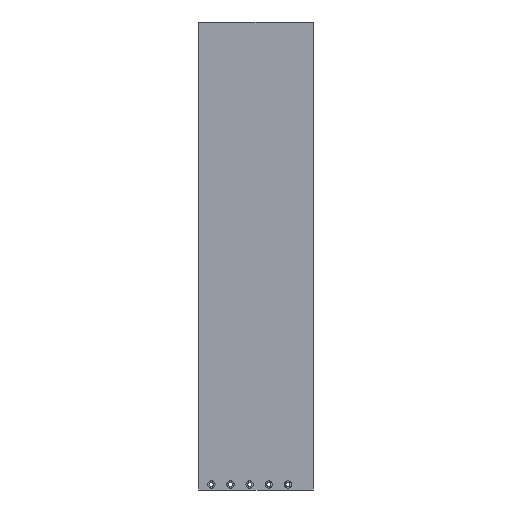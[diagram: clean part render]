
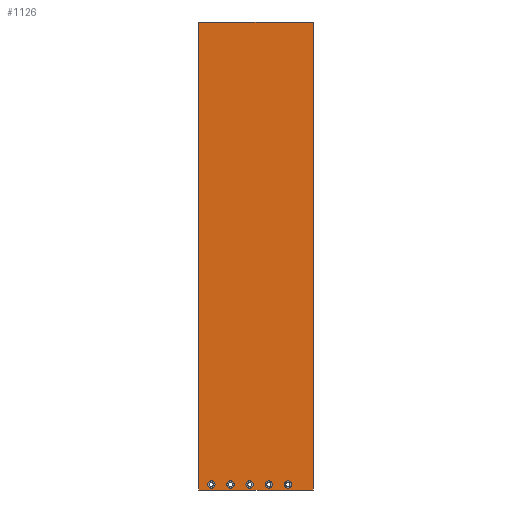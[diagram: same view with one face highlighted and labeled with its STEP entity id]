
A CAD part, front view. The second image highlights one B-rep face of the part: STEP entity #1126.
In plain terms, the highlighted planar face has unit normal (0, -1, 0).
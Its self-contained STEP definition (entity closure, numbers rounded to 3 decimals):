
#26=LINE('',#1991,#44);
#29=LINE('',#1996,#47);
#30=LINE('',#1999,#48);
#31=LINE('',#2000,#49);
#44=VECTOR('',#1685,514.);
#47=VECTOR('',#1690,126.);
#48=VECTOR('',#1693,514.);
#49=VECTOR('',#1694,126.);
#61=PLANE('',#1311);
#129=FACE_BOUND('',#453,.T.);
#130=FACE_BOUND('',#454,.T.);
#131=FACE_BOUND('',#455,.T.);
#132=FACE_BOUND('',#456,.T.);
#133=FACE_BOUND('',#457,.T.);
#294=FACE_OUTER_BOUND('',#452,.T.);
#452=EDGE_LOOP('',(#957,#958,#959,#960));
#453=EDGE_LOOP('',(#961));
#454=EDGE_LOOP('',(#962));
#455=EDGE_LOOP('',(#963));
#456=EDGE_LOOP('',(#964));
#457=EDGE_LOOP('',(#965));
#507=CIRCLE('',#1175,4.);
#511=CIRCLE('',#1182,4.);
#515=CIRCLE('',#1189,4.);
#519=CIRCLE('',#1196,4.);
#523=CIRCLE('',#1203,4.);
#597=VERTEX_POINT('',#1767);
#601=VERTEX_POINT('',#1778);
#605=VERTEX_POINT('',#1789);
#609=VERTEX_POINT('',#1800);
#613=VERTEX_POINT('',#1811);
#673=VERTEX_POINT('',#1988);
#674=VERTEX_POINT('',#1990);
#675=VERTEX_POINT('',#1994);
#676=VERTEX_POINT('',#1998);
#699=EDGE_CURVE('',#597,#597,#507,.T.);
#703=EDGE_CURVE('',#601,#601,#511,.T.);
#707=EDGE_CURVE('',#605,#605,#515,.T.);
#711=EDGE_CURVE('',#609,#609,#519,.T.);
#715=EDGE_CURVE('',#613,#613,#523,.T.);
#778=EDGE_CURVE('',#674,#673,#26,.T.);
#781=EDGE_CURVE('',#673,#675,#29,.T.);
#782=EDGE_CURVE('',#675,#676,#30,.T.);
#783=EDGE_CURVE('',#676,#674,#31,.T.);
#957=ORIENTED_EDGE('',*,*,#782,.T.);
#958=ORIENTED_EDGE('',*,*,#783,.T.);
#959=ORIENTED_EDGE('',*,*,#778,.T.);
#960=ORIENTED_EDGE('',*,*,#781,.T.);
#961=ORIENTED_EDGE('',*,*,#699,.T.);
#962=ORIENTED_EDGE('',*,*,#703,.T.);
#963=ORIENTED_EDGE('',*,*,#707,.T.);
#964=ORIENTED_EDGE('',*,*,#711,.T.);
#965=ORIENTED_EDGE('',*,*,#715,.T.);
#1126=ADVANCED_FACE('',(#294,#129,#130,#131,#132,#133),#61,.T.);
#1175=AXIS2_PLACEMENT_3D('',#1768,#1404,#1405);
#1182=AXIS2_PLACEMENT_3D('',#1779,#1418,#1419);
#1189=AXIS2_PLACEMENT_3D('',#1790,#1432,#1433);
#1196=AXIS2_PLACEMENT_3D('',#1801,#1446,#1447);
#1203=AXIS2_PLACEMENT_3D('',#1812,#1460,#1461);
#1311=AXIS2_PLACEMENT_3D('',#1997,#1691,#1692);
#1404=DIRECTION('center_axis',(0.,1.,0.));
#1405=DIRECTION('ref_axis',(1.,0.,0.));
#1418=DIRECTION('center_axis',(0.,1.,0.));
#1419=DIRECTION('ref_axis',(1.,0.,0.));
#1432=DIRECTION('center_axis',(0.,1.,0.));
#1433=DIRECTION('ref_axis',(1.,0.,0.));
#1446=DIRECTION('center_axis',(0.,1.,0.));
#1447=DIRECTION('ref_axis',(1.,0.,0.));
#1460=DIRECTION('center_axis',(0.,1.,0.));
#1461=DIRECTION('ref_axis',(1.,0.,0.));
#1685=DIRECTION('',(0.,0.,-1.));
#1690=DIRECTION('',(1.,0.,0.));
#1691=DIRECTION('center_axis',(0.,-1.,0.));
#1692=DIRECTION('ref_axis',(0.,0.,-1.));
#1693=DIRECTION('',(0.,0.,1.));
#1694=DIRECTION('',(-1.,0.,0.));
#1767=CARTESIAN_POINT('',(-24.,-6.,-251.));
#1768=CARTESIAN_POINT('Origin',(-28.,-6.,-251.));
#1778=CARTESIAN_POINT('',(18.,-6.,-251.));
#1779=CARTESIAN_POINT('Origin',(14.,-6.,-251.));
#1789=CARTESIAN_POINT('',(39.,-6.,-251.));
#1790=CARTESIAN_POINT('Origin',(35.,-6.,-251.));
#1800=CARTESIAN_POINT('',(-3.,-6.,-251.));
#1801=CARTESIAN_POINT('Origin',(-7.,-6.,-251.));
#1811=CARTESIAN_POINT('',(-45.,-6.,-251.));
#1812=CARTESIAN_POINT('Origin',(-49.,-6.,-251.));
#1988=CARTESIAN_POINT('',(-63.,-6.,-257.));
#1990=CARTESIAN_POINT('',(-63.,-6.,257.));
#1991=CARTESIAN_POINT('',(-63.,-6.,-257.));
#1994=CARTESIAN_POINT('',(63.,-6.,-257.));
#1996=CARTESIAN_POINT('',(63.,-6.,-257.));
#1997=CARTESIAN_POINT('Origin',(27.695,-6.,27.695));
#1998=CARTESIAN_POINT('',(63.,-6.,257.));
#1999=CARTESIAN_POINT('',(63.,-6.,257.));
#2000=CARTESIAN_POINT('',(-63.,-6.,257.));
